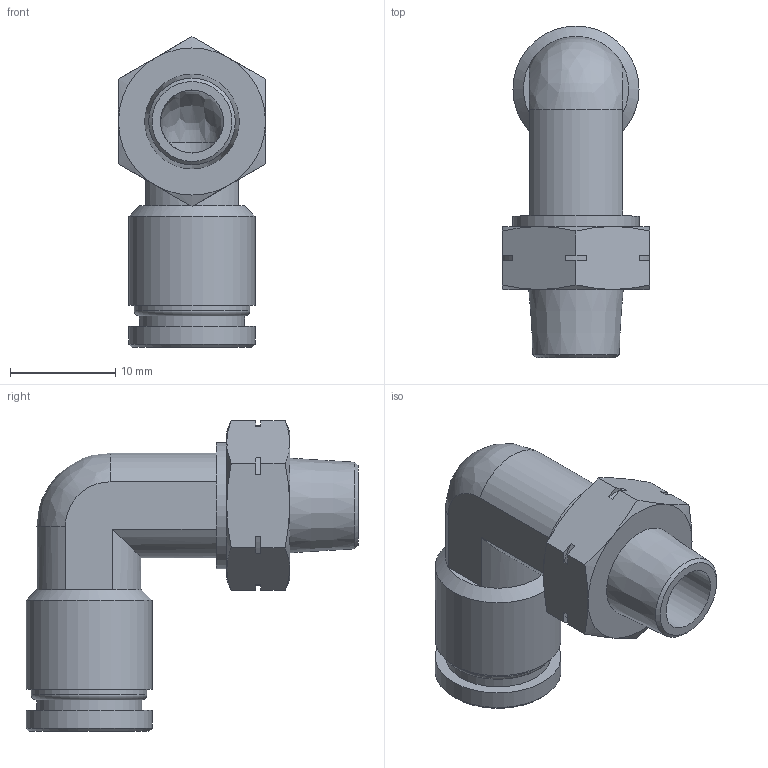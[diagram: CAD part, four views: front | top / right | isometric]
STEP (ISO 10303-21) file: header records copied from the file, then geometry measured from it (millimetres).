
FILE_DESCRIPTION(/* description */ (''),/* implementation_level */ '2;1');
FILE_NAME(/* name */ 'LXH21 0008 N1.stp',/* time_stamp */ '2026-05-01T13:24:28+02:00',/* author */ ('freju'),/* organization */ (''),/* preprocessor_version */ 'ST-DEVELOPER v20.1',/* originating_system */ 'Autodesk Inventor 2026',/* authorisation */ '');
FILE_SCHEMA (('AUTOMOTIVE_DESIGN { 1 0 10303 214 3 1 1 }'));
Length unit declared in the file: millimetre
Products named in the file (1): LXH21 0008 N1
Bounding box: 14 x 31.6 x 29.58 mm (x, y, z)
Volume: 2734.1 mm3; surface area: 2931.2 mm2
Topology: 1 solids, 1 shells, 67 faces, 162 edges, 101 vertices
Faces by surface type: plane 30, cylinder 18, cone 16, bspline 2, torus 1
Full cylindrical faces by diameter (mm): 6 x2, 8 x1, 10 x1, 11 x1, 12 x3
Entity records: 1991 total; most frequent: CARTESIAN_POINT 411, DIRECTION 332, ORIENTED_EDGE 320, EDGE_CURVE 160, AXIS2_PLACEMENT_3D 130, VERTEX_POINT 101, EDGE_LOOP 75, LINE 72
